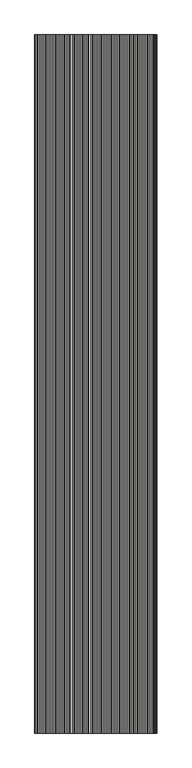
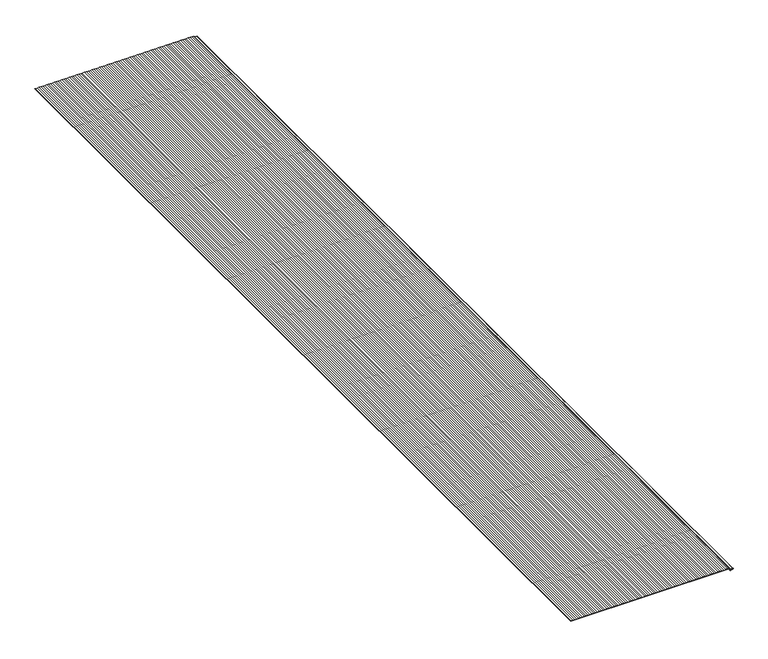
"""IFC4 building model written with IfcOpenShell, lengths in millimetres: covering geometry, Wall sandwich panel SPW-S CORE PIR (single sheet) : -."""

from ifc_helpers import new_model, si_unit, frame, origin, place, context, project, spatial, polyline, circle_curve, source, transform, mapped, element, save
from ifc_brep_helpers import plane_surface, cylinder_surface, revolved_surface, advanced_brep


def covering_4563f0d0(model_context):
    return source(origin(), model_context, "Body", "AdvancedBrep", [
        advanced_brep(
        [(-1035.0, -5800.0, -1.0), (-1035.0, -5800.0, 0.3495301), (-1035.0, 0.0, 0.3495301), (-1035.0, 0.0, -1.0), (-584.3070076, -5800.0, 0.4045269), (-595.9996799, -5800.0, 0.0045269), (-607.6923522, -5800.0, 0.4045269), (-619.5173522, -5800.0, 0.0), (-631.3423522, -5800.0, 0.4045269), (-643.1673522, -5800.0, 0.0), (-654.9923522, -5800.0, 0.4045269), (-666.8173522, -5800.0, 0.0), (-678.6423522, -5800.0, 0.4045269), (-690.4673522, -5800.0, 0.0), (-702.2923522, -5800.0, 0.4045269), (-714.1173522, -5800.0, 0.0), (-725.9423522, -5800.0, 0.4045269), (-737.7673522, -5800.0, 0.0), (-749.5923522, -5800.0, 0.4045269), (-761.4173522, -5800.0, 0.0), (-773.2423522, -5800.0, 0.4045269), (-785.0673522, -5800.0, 0.0), (-796.8923522, -5800.0, 0.4045269), (-808.7173522, -5800.0, 0.0), (-820.5423522, -5800.0, 0.4045269), (-832.3673522, -5800.0, 0.0), (-844.1923522, -5800.0, 0.4045269), (-856.0173522, -5800.0, 0.0), (-867.8423522, -5800.0, 0.4045269), (-879.6673522, -5800.0, 0.0), (-891.4923522, -5800.0, 0.4045269), (-903.3173522, -5800.0, 0.0), (-915.1423522, -5800.0, 0.4045269), (-926.9673522, -5800.0, 0.0), (-938.7923522, -5800.0, 0.4045269), (-950.6173522, -5800.0, 0.0), (-962.4423522, -5800.0, 0.4045269), (-974.2673522, -5800.0, 0.0), (-986.0923522, -5800.0, 0.4045269), (-997.9173522, -5800.0, 0.0), (-1009.7423522, -5800.0, 0.4045269), (-1021.5673522, -5800.0, 0.0), (-1033.3923522, -5800.0, 0.4045269), (-43.1186621, -5800.0, -1.0), (-41.1186621, -5800.0, -3.0), (-41.1186621, -5800.0, -5.07), (-39.1884611, -5800.0, -7.0687817), (-22.5992017, -5800.0, -7.6480914), (-22.43132, -5800.0, -12.4620284), (-33.6570079, -5800.0, -13.0503418), (-36.5, -5800.0, -16.0462304), (-36.5, -5800.0, -18.5462304), (-35.5, -5800.0, -18.5462304), (-35.5, -5800.0, -16.0462304), (-33.6046719, -5800.0, -14.0489713), (-22.6550677, -5800.0, -13.4751269), (-22.6835162, -5800.0, -6.6498388), (-39.1535616, -5800.0, -6.0693908), (-40.1186621, -5800.0, -5.07), (-40.1186621, -5800.0, -3.0), (-43.1186621, -5800.0, 0.0), (-52.1820076, -5800.0, 0.0), (-64.0070076, -5800.0, 0.4045269), (-75.8320076, -5800.0, 0.0), (-87.6570076, -5800.0, 0.4045269), (-99.4820076, -5800.0, 0.0), (-111.3070076, -5800.0, 0.4045269), (-123.1320076, -5800.0, 0.0), (-134.9570076, -5800.0, 0.4045269), (-146.7820076, -5800.0, 0.0), (-158.6070076, -5800.0, 0.4045269), (-170.4320076, -5800.0, 0.0), (-182.2570076, -5800.0, 0.4045269), (-194.0820076, -5800.0, 0.0), (-205.9070076, -5800.0, 0.4045269), (-217.7320076, -5800.0, 0.0), (-229.5570076, -5800.0, 0.4045269), (-241.3820076, -5800.0, 0.0), (-253.2070076, -5800.0, 0.4045269), (-265.0320076, -5800.0, 0.0), (-276.8570076, -5800.0, 0.4045269), (-288.6820076, -5800.0, 0.0), (-300.5070076, -5800.0, 0.4045269), (-312.3320076, -5800.0, 0.0), (-324.1570076, -5800.0, 0.4045269), (-335.9820076, -5800.0, 0.0), (-347.8070076, -5800.0, 0.4045269), (-359.6320076, -5800.0, 0.0), (-371.4570076, -5800.0, 0.4045269), (-383.2820076, -5800.0, 0.0), (-395.1070076, -5800.0, 0.4045269), (-406.9320076, -5800.0, 0.0), (-418.7570076, -5800.0, 0.4045269), (-430.5820076, -5800.0, 0.0), (-442.4070076, -5800.0, 0.4045269), (-454.2320076, -5800.0, 0.0), (-466.0570076, -5800.0, 0.4045269), (-477.8820076, -5800.0, 0.0), (-489.7070076, -5800.0, 0.4045269), (-501.5320076, -5800.0, 0.0), (-513.3570076, -5800.0, 0.4045269), (-525.1820076, -5800.0, 0.0), (-537.0070076, -5800.0, 0.4045269), (-548.8320076, -5800.0, 0.0), (-560.6570076, -5800.0, 0.4045269), (-572.4820076, -5800.0, 0.0), (-584.3070076, 0.0, 0.4045269), (-572.4820076, 0.0, 0.0), (-560.6570076, 0.0, 0.4045269), (-548.8320076, 0.0, 0.0), (-537.0070076, 0.0, 0.4045269), (-525.1820076, 0.0, 0.0), (-513.3570076, 0.0, 0.4045269), (-501.5320076, 0.0, 0.0), (-489.7070076, 0.0, 0.4045269), (-477.8820076, 0.0, 0.0), (-466.0570076, 0.0, 0.4045269), (-454.2320076, 0.0, 0.0), (-442.4070076, 0.0, 0.4045269), (-430.5820076, 0.0, 0.0), (-418.7570076, 0.0, 0.4045269), (-406.9320076, 0.0, 0.0), (-395.1070076, 0.0, 0.4045269), (-383.2820076, 0.0, 0.0), (-371.4570076, 0.0, 0.4045269), (-359.6320076, 0.0, 0.0), (-347.8070076, 0.0, 0.4045269), (-335.9820076, 0.0, 0.0), (-324.1570076, 0.0, 0.4045269), (-312.3320076, 0.0, 0.0), (-300.5070076, 0.0, 0.4045269), (-288.6820076, 0.0, 0.0), (-276.8570076, 0.0, 0.4045269), (-265.0320076, 0.0, 0.0), (-253.2070076, 0.0, 0.4045269), (-241.3820076, 0.0, 0.0), (-229.5570076, 0.0, 0.4045269), (-217.7320076, 0.0, 0.0), (-205.9070076, 0.0, 0.4045269), (-194.0820076, 0.0, 0.0), (-182.2570076, 0.0, 0.4045269), (-170.4320076, 0.0, 0.0), (-158.6070076, 0.0, 0.4045269), (-146.7820076, 0.0, 0.0), (-134.9570076, 0.0, 0.4045269), (-123.1320076, 0.0, 0.0), (-111.3070076, 0.0, 0.4045269), (-99.4820076, 0.0, 0.0), (-87.6570076, 0.0, 0.4045269), (-75.8320076, 0.0, 0.0), (-64.0070076, 0.0, 0.4045269), (-52.1820076, 0.0, 0.0), (-43.1186621, 0.0, 0.0), (-40.1186621, 0.0, -3.0), (-40.1186621, 0.0, -5.07), (-39.1535616, 0.0, -6.0693908), (-22.7218558, 0.0, -6.6431986), (-22.6550677, 0.0, -13.4751269), (-33.6046719, 0.0, -14.0489713), (-35.5, 0.0, -16.0462304), (-35.5, 0.0, -18.5462304), (-36.5, 0.0, -18.5462304), (-36.5, 0.0, -16.0462304), (-33.6570079, 0.0, -13.0503418), (-22.43132, 0.0, -12.4620284), (-22.5993141, 0.0, -7.6513085), (-39.1884611, 0.0, -7.0687817), (-41.1186621, 0.0, -5.07), (-41.1186621, 0.0, -3.0), (-43.1186621, 0.0, -1.0), (-1033.3923522, 0.0, 0.4045269), (-1021.5673522, 0.0, 0.0), (-1009.7423522, 0.0, 0.4045269), (-997.9173522, 0.0, 0.0), (-986.0923522, 0.0, 0.4045269), (-974.2673522, 0.0, 0.0), (-962.4423522, 0.0, 0.4045269), (-950.6173522, 0.0, 0.0), (-938.7923522, 0.0, 0.4045269), (-926.9673522, 0.0, 0.0), (-915.1423522, 0.0, 0.4045269), (-903.3173522, 0.0, 0.0), (-891.4923522, 0.0, 0.4045269), (-879.6673522, 0.0, 0.0), (-867.8423522, 0.0, 0.4045269), (-856.0173522, 0.0, 0.0), (-844.1923522, 0.0, 0.4045269), (-832.3673522, 0.0, 0.0), (-820.5423522, 0.0, 0.4045269), (-808.7173522, 0.0, 0.0), (-796.8923522, 0.0, 0.4045269), (-785.0673522, 0.0, 0.0), (-773.2423522, 0.0, 0.4045269), (-761.4173522, 0.0, 0.0), (-749.5923522, 0.0, 0.4045269), (-737.7673522, 0.0, 0.0), (-725.9423522, 0.0, 0.4045269), (-714.1173522, 0.0, 0.0), (-702.2923522, 0.0, 0.4045269), (-690.4673522, 0.0, 0.0), (-678.6423522, 0.0, 0.4045269), (-666.8173522, 0.0, 0.0), (-654.9923522, 0.0, 0.4045269), (-643.1673522, 0.0, 0.0), (-631.3423522, 0.0, 0.4045269), (-619.5173522, 0.0, 0.0), (-607.6923522, 0.0, 0.4045269), (-595.9996799, 0.0, 0.0045269)],
        [
            (0, 1),
            (1, 2),
            (2, 3),
            (3, 0),
            (4, 5),
            (5, 6),
            (6, 7),
            (7, 8),
            (8, 9),
            (9, 10),
            (10, 11),
            (11, 12),
            (12, 13),
            (13, 14),
            (14, 15),
            (15, 16),
            (16, 17),
            (17, 18),
            (18, 19),
            (19, 20),
            (20, 21),
            (21, 22),
            (22, 23),
            (23, 24),
            (24, 25),
            (25, 26),
            (26, 27),
            (27, 28),
            (28, 29),
            (29, 30),
            (30, 31),
            (31, 32),
            (32, 33),
            (33, 34),
            (34, 35),
            (35, 36),
            (36, 37),
            (37, 38),
            (38, 39),
            (39, 40),
            (40, 41),
            (41, 42),
            (42, 1),
            (0, 43),
            (43, 44, circle_curve(frame((-43.1186621, -5800.0, -3.0), z_axis=(0.0, 1.0, 0.0), x_axis=(1.0, 0.0, 0.0)), 2.0)),
            (44, 45),
            (45, 46, circle_curve(frame((-39.1186621, -5800.0, -5.07), z_axis=(0.0, -1.0, 0.0), x_axis=(1.0, 0.0, 0.0)), 2.0)),
            (46, 47),
            (47, 48, circle_curve(frame((-22.6835162, -5800.0, -10.0625421), z_axis=(0.0, 1.0, 0.0), x_axis=(1.0, 0.0, 0.0)), 2.4127033)),
            (48, 49),
            (49, 50, circle_curve(frame((-33.5, -5800.0, -16.0462304), z_axis=(0.0, -1.0, 0.0), x_axis=(1.0, 0.0, 0.0)), 3.0)),
            (50, 51),
            (51, 52),
            (52, 53),
            (53, 54, circle_curve(frame((-33.5, -5800.0, -16.0462304), z_axis=(0.0, 1.0, 0.0), x_axis=(1.0, 0.0, 0.0)), 2.0)),
            (54, 55),
            (55, 56, circle_curve(frame((-22.6835162, -5800.0, -10.0625421), z_axis=(0.0, -1.0, 0.0), x_axis=(1.0, 0.0, 0.0)), 3.4127033)),
            (56, 57),
            (57, 58, circle_curve(frame((-39.1186621, -5800.0, -5.07), z_axis=(0.0, 1.0, 0.0), x_axis=(1.0, 0.0, 0.0)), 1.0)),
            (58, 59),
            (59, 60, circle_curve(frame((-43.1186621, -5800.0, -3.0), z_axis=(0.0, -1.0, 0.0), x_axis=(1.0, 0.0, 0.0)), 3.0)),
            (60, 61),
            (61, 62),
            (62, 63),
            (63, 64),
            (64, 65),
            (65, 66),
            (66, 67),
            (67, 68),
            (68, 69),
            (69, 70),
            (70, 71),
            (71, 72),
            (72, 73),
            (73, 74),
            (74, 75),
            (75, 76),
            (76, 77),
            (77, 78),
            (78, 79),
            (79, 80),
            (80, 81),
            (81, 82),
            (82, 83),
            (83, 84),
            (84, 85),
            (85, 86),
            (86, 87),
            (87, 88),
            (88, 89),
            (89, 90),
            (90, 91),
            (91, 92),
            (92, 93),
            (93, 94),
            (94, 95),
            (95, 96),
            (96, 97),
            (97, 98),
            (98, 99),
            (99, 100),
            (100, 101),
            (101, 102),
            (102, 103),
            (103, 104),
            (104, 105),
            (105, 4),
            (106, 107),
            (107, 108),
            (108, 109),
            (109, 110),
            (110, 111),
            (111, 112),
            (112, 113),
            (113, 114),
            (114, 115),
            (115, 116),
            (116, 117),
            (117, 118),
            (118, 119),
            (119, 120),
            (120, 121),
            (121, 122),
            (122, 123),
            (123, 124),
            (124, 125),
            (125, 126),
            (126, 127),
            (127, 128),
            (128, 129),
            (129, 130),
            (130, 131),
            (131, 132),
            (132, 133),
            (133, 134),
            (134, 135),
            (135, 136),
            (136, 137),
            (137, 138),
            (138, 139),
            (139, 140),
            (140, 141),
            (141, 142),
            (142, 143),
            (143, 144),
            (144, 145),
            (145, 146),
            (146, 147),
            (147, 148),
            (148, 149),
            (149, 150),
            (150, 151),
            (151, 152),
            (152, 153, circle_curve(frame((-43.1186621, 0.0, -3.0), z_axis=(0.0, 1.0, 0.0), x_axis=(1.0, 0.0, 0.0)), 3.0)),
            (153, 154),
            (154, 155, circle_curve(frame((-39.1186621, 0.0, -5.07), z_axis=(0.0, -1.0, 0.0), x_axis=(1.0, 0.0, 0.0)), 1.0)),
            (155, 156),
            (156, 157, circle_curve(frame((-22.6835162, 0.0, -10.0625421), z_axis=(0.0, 1.0, 0.0), x_axis=(1.0, 0.0, 0.0)), 3.4127033)),
            (157, 158),
            (158, 159, circle_curve(frame((-33.5, 0.0, -16.0462304), z_axis=(0.0, -1.0, 0.0), x_axis=(1.0, 0.0, 0.0)), 2.0)),
            (159, 160),
            (160, 161),
            (161, 162),
            (162, 163, circle_curve(frame((-33.5, 0.0, -16.0462304), z_axis=(0.0, 1.0, 0.0), x_axis=(1.0, 0.0, 0.0)), 3.0)),
            (163, 164),
            (164, 165, circle_curve(frame((-22.6835162, 0.0, -10.0625421), z_axis=(0.0, -1.0, 0.0), x_axis=(1.0, 0.0, 0.0)), 2.4127033)),
            (165, 166),
            (166, 167, circle_curve(frame((-39.1186621, 0.0, -5.07), z_axis=(0.0, 1.0, 0.0), x_axis=(1.0, 0.0, 0.0)), 2.0)),
            (167, 168),
            (168, 169, circle_curve(frame((-43.1186621, 0.0, -3.0), z_axis=(0.0, -1.0, 0.0), x_axis=(1.0, 0.0, 0.0)), 2.0)),
            (169, 3),
            (2, 170),
            (170, 171),
            (171, 172),
            (172, 173),
            (173, 174),
            (174, 175),
            (175, 176),
            (176, 177),
            (177, 178),
            (178, 179),
            (179, 180),
            (180, 181),
            (181, 182),
            (182, 183),
            (183, 184),
            (184, 185),
            (185, 186),
            (186, 187),
            (187, 188),
            (188, 189),
            (189, 190),
            (190, 191),
            (191, 192),
            (192, 193),
            (193, 194),
            (194, 195),
            (195, 196),
            (196, 197),
            (197, 198),
            (198, 199),
            (199, 200),
            (200, 201),
            (201, 202),
            (202, 203),
            (203, 204),
            (204, 205),
            (205, 206),
            (206, 207),
            (207, 106),
            (105, 107),
            (106, 4),
            (104, 108),
            (103, 109),
            (102, 110),
            (101, 111),
            (100, 112),
            (99, 113),
            (98, 114),
            (97, 115),
            (96, 116),
            (95, 117),
            (94, 118),
            (93, 119),
            (92, 120),
            (91, 121),
            (90, 122),
            (89, 123),
            (88, 124),
            (87, 125),
            (86, 126),
            (85, 127),
            (84, 128),
            (83, 129),
            (82, 130),
            (81, 131),
            (80, 132),
            (79, 133),
            (78, 134),
            (77, 135),
            (76, 136),
            (75, 137),
            (59, 153),
            (152, 60),
            (58, 154),
            (57, 155),
            (56, 156),
            (55, 157),
            (54, 158),
            (53, 159),
            (52, 160),
            (51, 161),
            (50, 162),
            (49, 163),
            (48, 164),
            (47, 165),
            (46, 166),
            (45, 167),
            (44, 168),
            (43, 169),
            (16, 196),
            (195, 17),
            (15, 197),
            (14, 198),
            (13, 199),
            (12, 200),
            (11, 201),
            (10, 202),
            (9, 203),
            (8, 204),
            (7, 205),
            (6, 206),
            (5, 207),
            (151, 61),
            (150, 62),
            (149, 63),
            (148, 64),
            (147, 65),
            (146, 66),
            (145, 67),
            (144, 68),
            (143, 69),
            (142, 70),
            (141, 71),
            (140, 72),
            (139, 73),
            (138, 74),
            (42, 170),
            (41, 171),
            (40, 172),
            (39, 173),
            (38, 174),
            (37, 175),
            (36, 176),
            (35, 177),
            (34, 178),
            (33, 179),
            (32, 180),
            (31, 181),
            (30, 182),
            (29, 183),
            (28, 184),
            (27, 185),
            (26, 186),
            (25, 187),
            (24, 188),
            (23, 189),
            (22, 190),
            (21, 191),
            (20, 192),
            (19, 193),
            (18, 194),
        ],
        [
            plane_surface(frame((-1035.0, -5800.0, -1.0), z_axis=(-1.0, 0.0, 0.0), x_axis=(0.0, 1.0, 0.0))),
            plane_surface(frame((-35.0, -5800.0, 0.0), z_axis=(0.0, -1.0, 0.0), x_axis=(0.0, 0.0, 1.0))),
            plane_surface(frame((-35.0, 0.0, 0.0), z_axis=(0.0, 1.0, 0.0), x_axis=(0.0, 0.0, 1.0))),
            plane_surface(frame((-572.4820076, -5800.0, 0.0), z_axis=(0.034189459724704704, 0.0, 0.9994153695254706), x_axis=(0.0, 1.0, 0.0))),
            plane_surface(frame((-560.6570076, -5800.0, 0.4045269), z_axis=(-0.03418945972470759, 0.0, 0.9994153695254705), x_axis=(0.0, 1.0, 0.0))),
            plane_surface(frame((-548.8320076, -5800.0, 0.0), z_axis=(0.034189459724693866, 0.0, 0.9994153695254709), x_axis=(0.0, 1.0, 0.0))),
            plane_surface(frame((-537.0070076, -5800.0, 0.4045269), z_axis=(-0.03418945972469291, 0.0, 0.9994153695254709), x_axis=(0.0, 1.0, 0.0))),
            plane_surface(frame((-525.1820076, -5800.0, 0.0), z_axis=(0.034189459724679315, 0.0, 0.9994153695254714), x_axis=(0.0, 1.0, 0.0))),
            plane_surface(frame((-513.3570076, -5800.0, 0.4045269), z_axis=(-0.03418945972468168, 0.0, 0.9994153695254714), x_axis=(0.0, 1.0, 0.0))),
            plane_surface(frame((-501.5320076, -5800.0, 0.0), z_axis=(0.034189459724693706, 0.0, 0.9994153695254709), x_axis=(0.0, 1.0, 0.0))),
            plane_surface(frame((-489.7070076, -5800.0, 0.4045269), z_axis=(-0.03418945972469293, 0.0, 0.9994153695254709), x_axis=(0.0, 1.0, 0.0))),
            plane_surface(frame((-477.8820076, -5800.0, 0.0), z_axis=(0.03418945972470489, 0.0, 0.9994153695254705), x_axis=(0.0, 1.0, 0.0))),
            plane_surface(frame((-466.0570076, -5800.0, 0.4045269), z_axis=(-0.03418945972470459, 0.0, 0.9994153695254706), x_axis=(0.0, 1.0, 0.0))),
            plane_surface(frame((-454.2320076, -5800.0, 0.0), z_axis=(0.03418945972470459, 0.0, 0.9994153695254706), x_axis=(0.0, 1.0, 0.0))),
            plane_surface(frame((-442.4070076, -5800.0, 0.4045269), z_axis=(-0.034189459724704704, 0.0, 0.9994153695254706), x_axis=(0.0, 1.0, 0.0))),
            plane_surface(frame((-430.5820076, -5800.0, 0.0), z_axis=(0.034189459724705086, 0.0, 0.9994153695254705), x_axis=(0.0, 1.0, 0.0))),
            plane_surface(frame((-418.7570076, -5800.0, 0.4045269), z_axis=(-0.034189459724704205, 0.0, 0.9994153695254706), x_axis=(0.0, 1.0, 0.0))),
            plane_surface(frame((-406.9320076, -5800.0, 0.0), z_axis=(0.03418945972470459, 0.0, 0.9994153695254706), x_axis=(0.0, 1.0, 0.0))),
            plane_surface(frame((-395.1070076, -5800.0, 0.4045269), z_axis=(-0.034189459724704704, 0.0, 0.9994153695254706), x_axis=(0.0, 1.0, 0.0))),
            plane_surface(frame((-383.2820076, -5800.0, 0.0), z_axis=(0.03418945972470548, 0.0, 0.9994153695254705), x_axis=(0.0, 1.0, 0.0))),
            plane_surface(frame((-371.4570076, -5800.0, 0.4045269), z_axis=(-0.034189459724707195, 0.0, 0.9994153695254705), x_axis=(0.0, 1.0, 0.0))),
            plane_surface(frame((-359.6320076, -5800.0, 0.0), z_axis=(0.03418945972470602, 0.0, 0.9994153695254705), x_axis=(0.0, 1.0, 0.0))),
            plane_surface(frame((-347.8070076, -5800.0, 0.4045269), z_axis=(-0.034189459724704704, 0.0, 0.9994153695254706), x_axis=(0.0, 1.0, 0.0))),
            plane_surface(frame((-335.9820076, -5800.0, 0.0), z_axis=(0.034189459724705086, 0.0, 0.9994153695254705), x_axis=(0.0, 1.0, 0.0))),
            plane_surface(frame((-324.1570076, -5800.0, 0.4045269), z_axis=(-0.0341894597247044, 0.0, 0.9994153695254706), x_axis=(0.0, 1.0, 0.0))),
            plane_surface(frame((-312.3320076, -5800.0, 0.0), z_axis=(0.03418945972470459, 0.0, 0.9994153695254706), x_axis=(0.0, 1.0, 0.0))),
            plane_surface(frame((-300.5070076, -5800.0, 0.4045269), z_axis=(-0.034189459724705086, 0.0, 0.9994153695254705), x_axis=(0.0, 1.0, 0.0))),
            plane_surface(frame((-288.6820076, -5800.0, 0.0), z_axis=(0.034189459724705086, 0.0, 0.9994153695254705), x_axis=(0.0, 1.0, 0.0))),
            plane_surface(frame((-276.8570076, -5800.0, 0.4045269), z_axis=(-0.03418945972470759, 0.0, 0.9994153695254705), x_axis=(0.0, 1.0, 0.0))),
            plane_surface(frame((-265.0320076, -5800.0, 0.0), z_axis=(0.034189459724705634, 0.0, 0.9994153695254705), x_axis=(0.0, 1.0, 0.0))),
            plane_surface(frame((-253.2070076, -5800.0, 0.4045269), z_axis=(-0.034189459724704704, 0.0, 0.9994153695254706), x_axis=(0.0, 1.0, 0.0))),
            plane_surface(frame((-241.3820076, -5800.0, 0.0), z_axis=(0.034189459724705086, 0.0, 0.9994153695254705), x_axis=(0.0, 1.0, 0.0))),
            plane_surface(frame((-229.5570076, -5800.0, 0.4045269), z_axis=(-0.03418945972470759, 0.0, 0.9994153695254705), x_axis=(0.0, 1.0, 0.0))),
            plane_surface(frame((-217.7320076, -5800.0, 0.0), z_axis=(0.034189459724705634, 0.0, 0.9994153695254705), x_axis=(0.0, 1.0, 0.0))),
            cylinder_surface(frame((-43.1186621, -5800.0, -3.0), z_axis=(0.0, -1.0, 0.0), x_axis=(1.0, 0.0, 0.0)), 3.0),
            plane_surface(frame((-40.1186621, -5800.0, -5.07), z_axis=(1.0, 0.0, 0.0), x_axis=(0.0, 1.0, 0.0))),
            revolved_surface(polyline([(-38.1186621, 0.0, -5.07), (-38.1186621, -5800.0, -5.07)]), (-39.1186621, -5800.0, -5.07), (0.0, 1.0, 0.0)),
            plane_surface(frame((-22.7218558, -5800.0, -6.6431986), z_axis=(0.034899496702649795, 0.0, 0.9993908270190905), x_axis=(0.0, 1.0, 0.0))),
            cylinder_surface(frame((-22.6835162, -5800.0, -10.0625421), z_axis=(0.0, -1.0, 0.0), x_axis=(1.0, 0.0, 0.0)), 3.4127033),
            plane_surface(frame((-33.6046719, -5800.0, -14.0489713), z_axis=(0.05233595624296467, 0.0, -0.9986295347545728), x_axis=(0.0, 1.0, 0.0))),
            revolved_surface(polyline([(-31.5, 0.0, -16.0462304), (-31.5, -5800.0, -16.0462304)]), (-33.5, -5800.0, -16.0462304), (0.0, 1.0, 0.0)),
            plane_surface(frame((-35.5, -5800.0, -18.5462304), z_axis=(1.0, 0.0, 0.0), x_axis=(0.0, 1.0, 0.0))),
            plane_surface(frame((-36.5, -5800.0, -18.5462304), z_axis=(0.0, 0.0, -1.0), x_axis=(0.0, 1.0, 0.0))),
            plane_surface(frame((-36.5, -5800.0, -16.0462304), z_axis=(-1.0, 0.0, 0.0), x_axis=(0.0, 1.0, 0.0))),
            cylinder_surface(frame((-33.5, -5800.0, -16.0462304), z_axis=(0.0, -1.0, 0.0), x_axis=(1.0, 0.0, 0.0)), 3.0),
            plane_surface(frame((-22.43132, -5800.0, -12.4620284), z_axis=(-0.052335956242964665, 0.0, 0.9986295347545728), x_axis=(0.0, 1.0, 0.0))),
            revolved_surface(polyline([(-20.2708129, 0.0, -10.0625421), (-20.2708129, -5800.0, -10.0625421)]), (-22.6835162, -5800.0, -10.0625421), (0.0, 1.0, 0.0)),
            plane_surface(frame((-39.1884611, -5800.0, -7.0687817), z_axis=(-0.0348994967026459, 0.0, -0.9993908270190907), x_axis=(0.0, 1.0, 0.0))),
            cylinder_surface(frame((-39.1186621, -5800.0, -5.07), z_axis=(0.0, -1.0, 0.0), x_axis=(1.0, 0.0, 0.0)), 2.0),
            plane_surface(frame((-41.1186621, -5800.0, -3.0), z_axis=(-1.0, 0.0, 0.0), x_axis=(0.0, 1.0, 0.0))),
            revolved_surface(polyline([(-41.1186621, 0.0, -3.0), (-41.1186621, -5800.0, -3.0)]), (-43.1186621, -5800.0, -3.0), (0.0, 1.0, 0.0)),
            plane_surface(frame((-1185.0, -5800.0, -1.0), z_axis=(0.0, 0.0, -1.0), x_axis=(0.0, 1.0, 0.0))),
            plane_surface(frame((-725.9423522, -5800.0, 0.4045269), z_axis=(-0.034189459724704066, 0.0, 0.9994153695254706), x_axis=(0.0, 1.0, 0.0))),
            plane_surface(frame((-714.1173522, -5800.0, 0.0), z_axis=(0.0341894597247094, 0.0, 0.9994153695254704), x_axis=(0.0, 1.0, 0.0))),
            plane_surface(frame((-702.2923522, -5800.0, 0.4045269), z_axis=(-0.034189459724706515, 0.0, 0.9994153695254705), x_axis=(0.0, 1.0, 0.0))),
            plane_surface(frame((-690.4673522, -5800.0, 0.0), z_axis=(0.03418945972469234, 0.0, 0.9994153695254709), x_axis=(0.0, 1.0, 0.0))),
            plane_surface(frame((-678.6423522, -5800.0, 0.4045269), z_axis=(-0.03418945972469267, 0.0, 0.9994153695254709), x_axis=(0.0, 1.0, 0.0))),
            plane_surface(frame((-666.8173522, -5800.0, 0.0), z_axis=(0.03418945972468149, 0.0, 0.9994153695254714), x_axis=(0.0, 1.0, 0.0))),
            plane_surface(frame((-654.9923522, -5800.0, 0.4045269), z_axis=(-0.03418945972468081, 0.0, 0.9994153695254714), x_axis=(0.0, 1.0, 0.0))),
            plane_surface(frame((-643.1673522, -5800.0, 0.0), z_axis=(0.03418945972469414, 0.0, 0.9994153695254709), x_axis=(0.0, 1.0, 0.0))),
            plane_surface(frame((-631.3423522, -5800.0, 0.4045269), z_axis=(-0.03418945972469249, 0.0, 0.9994153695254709), x_axis=(0.0, 1.0, 0.0))),
            plane_surface(frame((-619.5173522, -5800.0, 0.0), z_axis=(0.034189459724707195, 0.0, 0.9994153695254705), x_axis=(0.0, 1.0, 0.0))),
            plane_surface(frame((-607.6923522, -5800.0, 0.4045269), z_axis=(-0.034189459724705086, 0.0, 0.9994153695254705), x_axis=(0.0, 1.0, 0.0))),
            plane_surface(frame((-595.9996799, -5800.0, 0.0045269), z_axis=(0.034189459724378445, 0.0, 0.9994153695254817), x_axis=(0.0, 1.0, 0.0))),
            plane_surface(frame((-584.3070076, -5800.0, 0.4045269), z_axis=(-0.034189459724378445, 0.0, 0.9994153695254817), x_axis=(0.0, 1.0, 0.0))),
            plane_surface(frame((-44.0820076, -5800.0, 0.0), z_axis=(0.0, 0.0, 1.0), x_axis=(0.0, 1.0, 0.0))),
            plane_surface(frame((-52.1820076, -5800.0, 0.0), z_axis=(0.034189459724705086, 0.0, 0.9994153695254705), x_axis=(0.0, 1.0, 0.0))),
            plane_surface(frame((-64.0070076, -5800.0, 0.4045269), z_axis=(-0.034189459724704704, 0.0, 0.9994153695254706), x_axis=(0.0, 1.0, 0.0))),
            plane_surface(frame((-75.8320076, -5800.0, 0.0), z_axis=(0.034189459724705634, 0.0, 0.9994153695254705), x_axis=(0.0, 1.0, 0.0))),
            plane_surface(frame((-87.6570076, -5800.0, 0.4045269), z_axis=(-0.03418945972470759, 0.0, 0.9994153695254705), x_axis=(0.0, 1.0, 0.0))),
            plane_surface(frame((-99.4820076, -5800.0, 0.0), z_axis=(0.034189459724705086, 0.0, 0.9994153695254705), x_axis=(0.0, 1.0, 0.0))),
            plane_surface(frame((-111.3070076, -5800.0, 0.4045269), z_axis=(-0.034189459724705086, 0.0, 0.9994153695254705), x_axis=(0.0, 1.0, 0.0))),
            plane_surface(frame((-123.1320076, -5800.0, 0.0), z_axis=(0.034189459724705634, 0.0, 0.9994153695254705), x_axis=(0.0, 1.0, 0.0))),
            plane_surface(frame((-134.9570076, -5800.0, 0.4045269), z_axis=(-0.03418945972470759, 0.0, 0.9994153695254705), x_axis=(0.0, 1.0, 0.0))),
            plane_surface(frame((-146.7820076, -5800.0, 0.0), z_axis=(0.034189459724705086, 0.0, 0.9994153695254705), x_axis=(0.0, 1.0, 0.0))),
            plane_surface(frame((-158.6070076, -5800.0, 0.4045269), z_axis=(-0.034189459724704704, 0.0, 0.9994153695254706), x_axis=(0.0, 1.0, 0.0))),
            plane_surface(frame((-170.4320076, -5800.0, 0.0), z_axis=(0.034189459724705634, 0.0, 0.9994153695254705), x_axis=(0.0, 1.0, 0.0))),
            plane_surface(frame((-182.2570076, -5800.0, 0.4045269), z_axis=(-0.03418945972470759, 0.0, 0.9994153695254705), x_axis=(0.0, 1.0, 0.0))),
            plane_surface(frame((-194.0820076, -5800.0, 0.0), z_axis=(0.034189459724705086, 0.0, 0.9994153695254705), x_axis=(0.0, 1.0, 0.0))),
            plane_surface(frame((-205.9070076, -5800.0, 0.4045269), z_axis=(-0.034189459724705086, 0.0, 0.9994153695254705), x_axis=(0.0, 1.0, 0.0))),
            plane_surface(frame((-1033.3923522, -5800.0, 0.4045269), z_axis=(-0.03418945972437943, 0.0, 0.9994153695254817), x_axis=(0.0, 1.0, 0.0))),
            plane_surface(frame((-1021.5673522, -5800.0, 0.0), z_axis=(0.03418945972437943, 0.0, 0.9994153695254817), x_axis=(0.0, 1.0, 0.0))),
            plane_surface(frame((-1009.7423522, -5800.0, 0.4045269), z_axis=(-0.03418945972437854, 0.0, 0.9994153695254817), x_axis=(0.0, 1.0, 0.0))),
            plane_surface(frame((-997.9173522, -5800.0, 0.0), z_axis=(0.0341894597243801, 0.0, 0.9994153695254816), x_axis=(0.0, 1.0, 0.0))),
            plane_surface(frame((-986.0923522, -5800.0, 0.4045269), z_axis=(-0.03418945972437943, 0.0, 0.9994153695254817), x_axis=(0.0, 1.0, 0.0))),
            plane_surface(frame((-974.2673522, -5800.0, 0.0), z_axis=(0.03418945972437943, 0.0, 0.9994153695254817), x_axis=(0.0, 1.0, 0.0))),
            plane_surface(frame((-962.4423522, -5800.0, 0.4045269), z_axis=(-0.0341894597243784, 0.0, 0.9994153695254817), x_axis=(0.0, 1.0, 0.0))),
            plane_surface(frame((-950.6173522, -5800.0, 0.0), z_axis=(0.03418945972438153, 0.0, 0.9994153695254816), x_axis=(0.0, 1.0, 0.0))),
            plane_surface(frame((-938.7923522, -5800.0, 0.4045269), z_axis=(-0.03418945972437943, 0.0, 0.9994153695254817), x_axis=(0.0, 1.0, 0.0))),
            plane_surface(frame((-926.9673522, -5800.0, 0.0), z_axis=(0.03418945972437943, 0.0, 0.9994153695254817), x_axis=(0.0, 1.0, 0.0))),
            plane_surface(frame((-915.1423522, -5800.0, 0.4045269), z_axis=(-0.03418945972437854, 0.0, 0.9994153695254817), x_axis=(0.0, 1.0, 0.0))),
            plane_surface(frame((-903.3173522, -5800.0, 0.0), z_axis=(0.0341894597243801, 0.0, 0.9994153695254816), x_axis=(0.0, 1.0, 0.0))),
            plane_surface(frame((-891.4923522, -5800.0, 0.4045269), z_axis=(-0.03418945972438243, 0.0, 0.9994153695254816), x_axis=(0.0, 1.0, 0.0))),
            plane_surface(frame((-879.6673522, -5800.0, 0.0), z_axis=(0.034189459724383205, 0.0, 0.9994153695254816), x_axis=(0.0, 1.0, 0.0))),
            plane_surface(frame((-867.8423522, -5800.0, 0.4045269), z_axis=(-0.0341894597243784, 0.0, 0.9994153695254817), x_axis=(0.0, 1.0, 0.0))),
            plane_surface(frame((-856.0173522, -5800.0, 0.0), z_axis=(0.0341894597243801, 0.0, 0.9994153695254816), x_axis=(0.0, 1.0, 0.0))),
            plane_surface(frame((-844.1923522, -5800.0, 0.4045269), z_axis=(-0.034189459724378, 0.0, 0.9994153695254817), x_axis=(0.0, 1.0, 0.0))),
            plane_surface(frame((-832.3673522, -5800.0, 0.0), z_axis=(0.034189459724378, 0.0, 0.9994153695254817), x_axis=(0.0, 1.0, 0.0))),
            plane_surface(frame((-820.5423522, -5800.0, 0.4045269), z_axis=(-0.03418945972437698, 0.0, 0.9994153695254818), x_axis=(0.0, 1.0, 0.0))),
            plane_surface(frame((-808.7173522, -5800.0, 0.0), z_axis=(0.0341894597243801, 0.0, 0.9994153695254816), x_axis=(0.0, 1.0, 0.0))),
            plane_surface(frame((-796.8923522, -5800.0, 0.4045269), z_axis=(-0.034189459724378, 0.0, 0.9994153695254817), x_axis=(0.0, 1.0, 0.0))),
            plane_surface(frame((-785.0673522, -5800.0, 0.0), z_axis=(0.03418945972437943, 0.0, 0.9994153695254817), x_axis=(0.0, 1.0, 0.0))),
            plane_surface(frame((-773.2423522, -5800.0, 0.4045269), z_axis=(-0.0341894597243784, 0.0, 0.9994153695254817), x_axis=(0.0, 1.0, 0.0))),
            plane_surface(frame((-761.4173522, -5800.0, 0.0), z_axis=(0.034189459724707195, 0.0, 0.9994153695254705), x_axis=(0.0, 1.0, 0.0))),
            plane_surface(frame((-749.5923522, -5800.0, 0.4045269), z_axis=(-0.034189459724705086, 0.0, 0.9994153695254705), x_axis=(0.0, 1.0, 0.0))),
            plane_surface(frame((-737.7673522, -5800.0, 0.0), z_axis=(0.034189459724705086, 0.0, 0.9994153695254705), x_axis=(0.0, 1.0, 0.0))),
        ],
        [
            (0, [[1, 2, 3, 4]]),
            (1, [[5, 6, 7, 8, 9, 10, 11, 12, 13, 14, 15, 16, 17, 18, 19, 20, 21, 22, 23, 24, 25, 26, 27, 28, 29, 30, 31, 32, 33, 34, 35, 36, 37, 38, 39, 40, 41, 42, 43, -1, 44, 45, 46, 47, 48, 49, 50, 51, 52, 53, 54, 55, 56, 57, 58, 59, 60, 61, 62, 63, 64, 65, 66, 67, 68, 69, 70, 71, 72, 73, 74, 75, 76, 77, 78, 79, 80, 81, 82, 83, 84, 85, 86, 87, 88, 89, 90, 91, 92, 93, 94, 95, 96, 97, 98, 99, 100, 101, 102, 103, 104, 105, 106, 107]]),
            (2, [[108, 109, 110, 111, 112, 113, 114, 115, 116, 117, 118, 119, 120, 121, 122, 123, 124, 125, 126, 127, 128, 129, 130, 131, 132, 133, 134, 135, 136, 137, 138, 139, 140, 141, 142, 143, 144, 145, 146, 147, 148, 149, 150, 151, 152, 153, 154, 155, 156, 157, 158, 159, 160, 161, 162, 163, 164, 165, 166, 167, 168, 169, 170, 171, -3, 172, 173, 174, 175, 176, 177, 178, 179, 180, 181, 182, 183, 184, 185, 186, 187, 188, 189, 190, 191, 192, 193, 194, 195, 196, 197, 198, 199, 200, 201, 202, 203, 204, 205, 206, 207, 208, 209, 210]]),
            (3, [[-107, 211, -108, 212]]),
            (4, [[-106, 213, -109, -211]]),
            (5, [[-105, 214, -110, -213]]),
            (6, [[-104, 215, -111, -214]]),
            (7, [[-103, 216, -112, -215]]),
            (8, [[-102, 217, -113, -216]]),
            (9, [[-101, 218, -114, -217]]),
            (10, [[-100, 219, -115, -218]]),
            (11, [[-99, 220, -116, -219]]),
            (12, [[-98, 221, -117, -220]]),
            (13, [[-97, 222, -118, -221]]),
            (14, [[-96, 223, -119, -222]]),
            (15, [[-95, 224, -120, -223]]),
            (16, [[-94, 225, -121, -224]]),
            (17, [[-93, 226, -122, -225]]),
            (18, [[-92, 227, -123, -226]]),
            (19, [[-91, 228, -124, -227]]),
            (20, [[-90, 229, -125, -228]]),
            (21, [[-89, 230, -126, -229]]),
            (22, [[-88, 231, -127, -230]]),
            (23, [[-87, 232, -128, -231]]),
            (24, [[-86, 233, -129, -232]]),
            (25, [[-85, 234, -130, -233]]),
            (26, [[-84, 235, -131, -234]]),
            (27, [[-83, 236, -132, -235]]),
            (28, [[-82, 237, -133, -236]]),
            (29, [[-81, 238, -134, -237]]),
            (30, [[-80, 239, -135, -238]]),
            (31, [[-79, 240, -136, -239]]),
            (32, [[-78, 241, -137, -240]]),
            (33, [[-77, 242, -138, -241]]),
            (34, [[-61, 243, -154, 244]]),
            (35, [[-60, 245, -155, -243]]),
            (36, [[-59, 246, -156, -245]]),
            (37, [[-58, 247, -157, -246]]),
            (38, [[-57, 248, -158, -247]]),
            (39, [[-56, 249, -159, -248]]),
            (40, [[-55, 250, -160, -249]]),
            (41, [[-54, 251, -161, -250]]),
            (42, [[-53, 252, -162, -251]]),
            (43, [[-52, 253, -163, -252]]),
            (44, [[-51, 254, -164, -253]]),
            (45, [[-50, 255, -165, -254]]),
            (46, [[-49, 256, -166, -255]]),
            (47, [[-48, 257, -167, -256]]),
            (48, [[-47, 258, -168, -257]]),
            (49, [[-46, 259, -169, -258]]),
            (50, [[-45, 260, -170, -259]]),
            (51, [[-260, -44, -4, -171]]),
            (52, [[-17, 261, -198, 262]]),
            (53, [[-16, 263, -199, -261]]),
            (54, [[-15, 264, -200, -263]]),
            (55, [[-14, 265, -201, -264]]),
            (56, [[-13, 266, -202, -265]]),
            (57, [[-12, 267, -203, -266]]),
            (58, [[-11, 268, -204, -267]]),
            (59, [[-10, 269, -205, -268]]),
            (60, [[-9, 270, -206, -269]]),
            (61, [[-8, 271, -207, -270]]),
            (62, [[-7, 272, -208, -271]]),
            (63, [[-6, 273, -209, -272]]),
            (64, [[-5, -212, -210, -273]]),
            (65, [[-62, -244, -153, 274]]),
            (66, [[-63, -274, -152, 275]]),
            (67, [[-64, -275, -151, 276]]),
            (68, [[-65, -276, -150, 277]]),
            (69, [[-66, -277, -149, 278]]),
            (70, [[-67, -278, -148, 279]]),
            (71, [[-68, -279, -147, 280]]),
            (72, [[-69, -280, -146, 281]]),
            (73, [[-70, -281, -145, 282]]),
            (74, [[-71, -282, -144, 283]]),
            (75, [[-72, -283, -143, 284]]),
            (76, [[-73, -284, -142, 285]]),
            (77, [[-74, -285, -141, 286]]),
            (78, [[-75, -286, -140, 287]]),
            (79, [[-76, -287, -139, -242]]),
            (80, [[288, -172, -2, -43]]),
            (81, [[-42, 289, -173, -288]]),
            (82, [[-41, 290, -174, -289]]),
            (83, [[-40, 291, -175, -290]]),
            (84, [[-39, 292, -176, -291]]),
            (85, [[-38, 293, -177, -292]]),
            (86, [[-37, 294, -178, -293]]),
            (87, [[-36, 295, -179, -294]]),
            (88, [[-35, 296, -180, -295]]),
            (89, [[-34, 297, -181, -296]]),
            (90, [[-33, 298, -182, -297]]),
            (91, [[-32, 299, -183, -298]]),
            (92, [[-31, 300, -184, -299]]),
            (93, [[-30, 301, -185, -300]]),
            (94, [[-29, 302, -186, -301]]),
            (95, [[-28, 303, -187, -302]]),
            (96, [[-27, 304, -188, -303]]),
            (97, [[-26, 305, -189, -304]]),
            (98, [[-25, 306, -190, -305]]),
            (99, [[-24, 307, -191, -306]]),
            (100, [[-23, 308, -192, -307]]),
            (101, [[-22, 309, -193, -308]]),
            (102, [[-21, 310, -194, -309]]),
            (103, [[-20, 311, -195, -310]]),
            (104, [[-19, 312, -196, -311]]),
            (105, [[-18, -262, -197, -312]]),
        ],
    ),
    ])


if __name__ == "__main__":
    model = new_model("IFC4")
    model_context = context("Model", 3, world=origin())
    ifc_project = project(units=[si_unit("LENGTHUNIT", "METRE", prefix="MILLI")], contexts=[model_context])
    site = spatial("IfcSite", under=ifc_project)
    building = spatial("IfcBuilding", under=site)
    placement = place(None, origin())
    covering_shape = covering_4563f0d0(model_context)
    element("IfcCovering", 1, ObjectType="Wall sandwich panel SPW-S CORE PIR (single sheet) : -", at=placement, inside=building, context=model_context, shape_type="MappedRepresentation", body=[
        mapped(covering_shape, transform((0.0, 0.0, 0.0), x_axis=(1.0, 0.0, 0.0), y_axis=(0.0, 1.0, 0.0), z_axis=(0.0, 0.0, 1.0))),
    ])
    save(model, "model.ifc")
